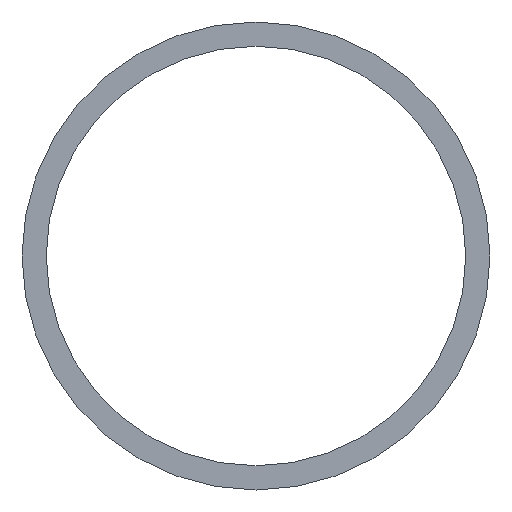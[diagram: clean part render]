
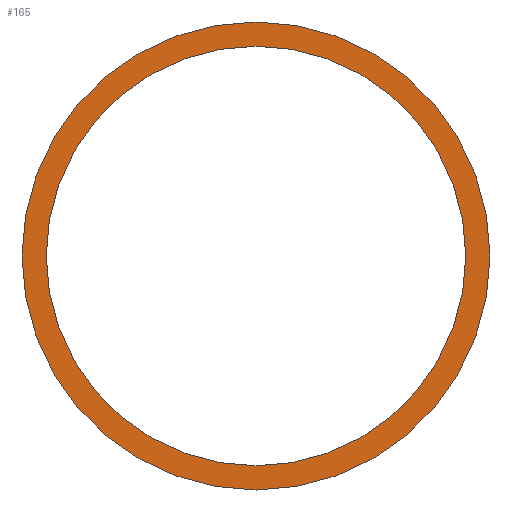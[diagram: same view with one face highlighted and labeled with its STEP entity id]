
A CAD part, front view. The second image highlights one B-rep face of the part: STEP entity #165.
In plain terms, the highlighted planar face has unit normal (0, -1, 0).
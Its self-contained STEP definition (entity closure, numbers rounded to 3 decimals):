
#1 = ORIENTED_EDGE ( 'NONE', *, *, #112, .F. ) ;
#3 = CARTESIAN_POINT ( 'NONE',  ( 11020., 1143., 3520. ) ) ;
#7 = AXIS2_PLACEMENT_3D ( 'NONE', #207, #143, #88 ) ;
#14 = DIRECTION ( 'NONE',  ( 0., -1., 0. ) ) ;
#15 = ORIENTED_EDGE ( 'NONE', *, *, #33, .T. ) ;
#16 = EDGE_LOOP ( 'NONE', ( #45, #1 ) ) ;
#17 = VERTEX_POINT ( 'NONE', #3 ) ;
#27 = AXIS2_PLACEMENT_3D ( 'NONE', #116, #14, #55 ) ;
#28 = DIRECTION ( 'NONE',  ( 0., -1., 0. ) ) ;
#30 = DIRECTION ( 'NONE',  ( 0., -1., 0. ) ) ;
#33 = EDGE_CURVE ( 'NONE', #95, #17, #149, .T. ) ;
#37 = DIRECTION ( 'NONE',  ( 0., 0., -1. ) ) ;
#43 = VERTEX_POINT ( 'NONE', #82 ) ;
#45 = ORIENTED_EDGE ( 'NONE', *, *, #137, .F. ) ;
#48 = EDGE_LOOP ( 'NONE', ( #180, #15 ) ) ;
#50 = AXIS2_PLACEMENT_3D ( 'NONE', #89, #28, #139 ) ;
#55 = DIRECTION ( 'NONE',  ( 0., 0., -1. ) ) ;
#75 = AXIS2_PLACEMENT_3D ( 'NONE', #162, #30, #123 ) ;
#80 = CIRCLE ( 'NONE', #27, 21.65 ) ;
#82 = CARTESIAN_POINT ( 'NONE',  ( 11020., 1143., 3517.5 ) ) ;
#83 = CARTESIAN_POINT ( 'NONE',  ( 11020., 1143., 3495.85 ) ) ;
#88 = DIRECTION ( 'NONE',  ( 0., 0., -1. ) ) ;
#89 = CARTESIAN_POINT ( 'NONE',  ( 11020., 1143., 3495.85 ) ) ;
#92 = CIRCLE ( 'NONE', #7, 21.65 ) ;
#95 = VERTEX_POINT ( 'NONE', #153 ) ;
#97 = AXIS2_PLACEMENT_3D ( 'NONE', #83, #186, #37 ) ;
#106 = PLANE ( 'NONE',  #75 ) ;
#112 = EDGE_CURVE ( 'NONE', #199, #43, #80, .T. ) ;
#116 = CARTESIAN_POINT ( 'NONE',  ( 11020., 1143., 3495.85 ) ) ;
#123 = DIRECTION ( 'NONE',  ( 0., 0., -1. ) ) ;
#126 = EDGE_CURVE ( 'NONE', #17, #95, #167, .T. ) ;
#137 = EDGE_CURVE ( 'NONE', #43, #199, #92, .T. ) ;
#139 = DIRECTION ( 'NONE',  ( 0., 0., -1. ) ) ;
#143 = DIRECTION ( 'NONE',  ( 0., -1., 0. ) ) ;
#149 = CIRCLE ( 'NONE', #97, 24.15 ) ;
#153 = CARTESIAN_POINT ( 'NONE',  ( 11020., 1143., 3471.7 ) ) ;
#162 = CARTESIAN_POINT ( 'NONE',  ( 11020., 1143., 3495.85 ) ) ;
#165 = ADVANCED_FACE ( 'NONE', ( #192, #177 ), #106, .T. ) ;
#167 = CIRCLE ( 'NONE', #50, 24.15 ) ;
#177 = FACE_OUTER_BOUND ( 'NONE', #48, .T. ) ;
#180 = ORIENTED_EDGE ( 'NONE', *, *, #126, .T. ) ;
#186 = DIRECTION ( 'NONE',  ( 0., -1., 0. ) ) ;
#192 = FACE_BOUND ( 'NONE', #16, .T. ) ;
#199 = VERTEX_POINT ( 'NONE', #210 ) ;
#207 = CARTESIAN_POINT ( 'NONE',  ( 11020., 1143., 3495.85 ) ) ;
#210 = CARTESIAN_POINT ( 'NONE',  ( 11020., 1143., 3474.2 ) ) ;
